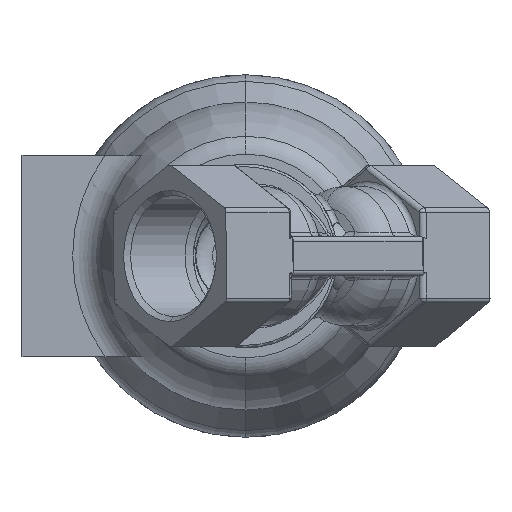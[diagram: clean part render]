
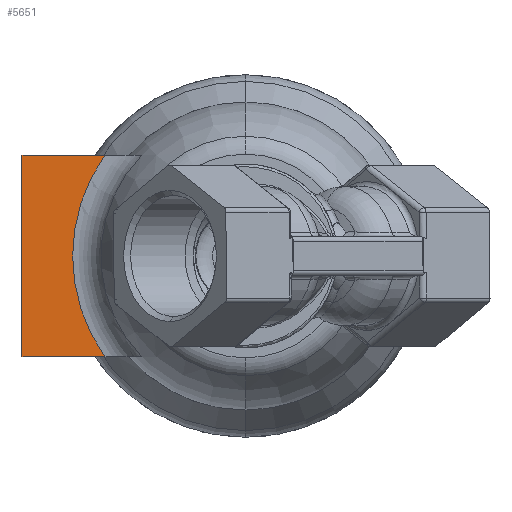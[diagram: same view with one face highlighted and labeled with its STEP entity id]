
A CAD part, front view. The second image highlights one B-rep face of the part: STEP entity #5651.
In plain terms, the highlighted planar face has unit normal (0, -1, 0).
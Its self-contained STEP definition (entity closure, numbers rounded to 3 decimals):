
#122 = EDGE_CURVE ( 'NONE', #11822, #8876, #7202, .T. ) ;
#390 = CARTESIAN_POINT ( 'NONE',  ( -28.316, 105.986, 20.25 ) ) ;
#1692 = CARTESIAN_POINT ( 'NONE',  ( -45., 105.986, 20.25 ) ) ;
#2119 = EDGE_CURVE ( 'NONE', #7006, #11822, #2378, .T. ) ;
#2253 = CIRCLE ( 'NONE', #10193, 34.812 ) ;
#2373 = EDGE_LOOP ( 'NONE', ( #6834, #8035, #8943, #9262 ) ) ;
#2378 = LINE ( 'NONE', #9281, #4977 ) ;
#2704 = CARTESIAN_POINT ( 'NONE',  ( 36.501, 105.986, 20.25 ) ) ;
#2886 = AXIS2_PLACEMENT_3D ( 'NONE', #2704, #3686, #10549 ) ;
#2910 = DIRECTION ( 'NONE',  ( 0., 0., -1. ) ) ;
#3078 = CARTESIAN_POINT ( 'NONE',  ( -45., 105.986, 20.25 ) ) ;
#3108 = DIRECTION ( 'NONE',  ( -1., 0., 0. ) ) ;
#3686 = DIRECTION ( 'NONE',  ( 0., 1., 0. ) ) ;
#3795 = VECTOR ( 'NONE', #3108, 1000. ) ;
#4071 = CARTESIAN_POINT ( 'NONE',  ( 36.501, 105.986, -20.25 ) ) ;
#4977 = VECTOR ( 'NONE', #11343, 1000. ) ;
#5532 = DIRECTION ( 'NONE',  ( 0., 1., 0. ) ) ;
#5651 = ADVANCED_FACE ( 'NONE', ( #5703 ), #8552, .F. ) ;
#5703 = FACE_OUTER_BOUND ( 'NONE', #2373, .T. ) ;
#6834 = ORIENTED_EDGE ( 'NONE', *, *, #11989, .F. ) ;
#7006 = VERTEX_POINT ( 'NONE', #390 ) ;
#7202 = LINE ( 'NONE', #3078, #9169 ) ;
#8035 = ORIENTED_EDGE ( 'NONE', *, *, #12234, .T. ) ;
#8552 = PLANE ( 'NONE',  #2886 ) ;
#8876 = VERTEX_POINT ( 'NONE', #12330 ) ;
#8943 = ORIENTED_EDGE ( 'NONE', *, *, #2119, .T. ) ;
#9169 = VECTOR ( 'NONE', #2910, 1000. ) ;
#9262 = ORIENTED_EDGE ( 'NONE', *, *, #122, .T. ) ;
#9281 = CARTESIAN_POINT ( 'NONE',  ( 36.501, 105.986, 20.25 ) ) ;
#10158 = CARTESIAN_POINT ( 'NONE',  ( -28.316, 105.986, -20.25 ) ) ;
#10193 = AXIS2_PLACEMENT_3D ( 'NONE', #11427, #5532, #12407 ) ;
#10549 = DIRECTION ( 'NONE',  ( 0., 0., 1. ) ) ;
#11343 = DIRECTION ( 'NONE',  ( -1., 0., 0. ) ) ;
#11427 = CARTESIAN_POINT ( 'NONE',  ( 0., 105.986, 0. ) ) ;
#11640 = LINE ( 'NONE', #4071, #3795 ) ;
#11822 = VERTEX_POINT ( 'NONE', #1692 ) ;
#11989 = EDGE_CURVE ( 'NONE', #12101, #8876, #11640, .T. ) ;
#12101 = VERTEX_POINT ( 'NONE', #10158 ) ;
#12234 = EDGE_CURVE ( 'NONE', #12101, #7006, #2253, .T. ) ;
#12330 = CARTESIAN_POINT ( 'NONE',  ( -45., 105.986, -20.25 ) ) ;
#12407 = DIRECTION ( 'NONE',  ( 0., 0., 1. ) ) ;
